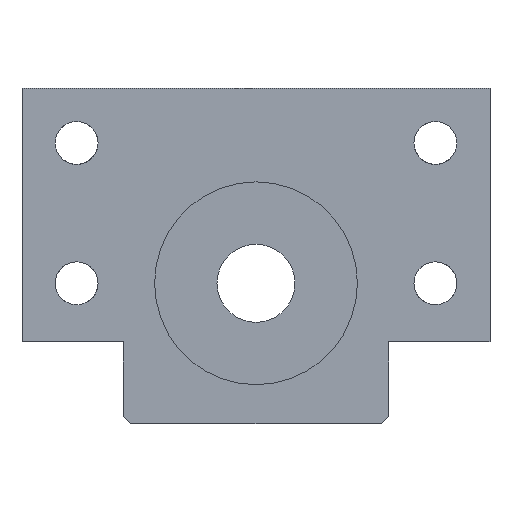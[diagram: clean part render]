
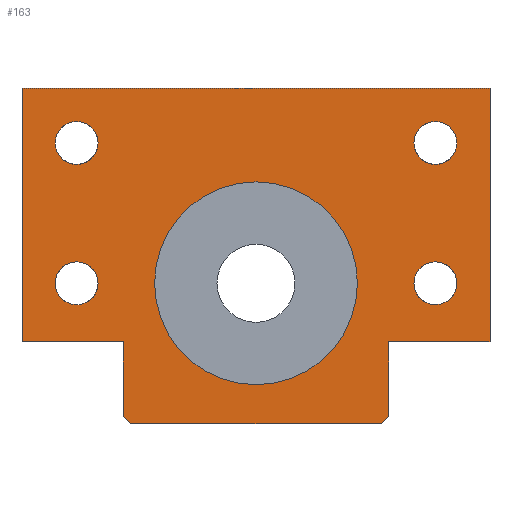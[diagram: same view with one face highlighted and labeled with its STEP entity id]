
A CAD part, left-side view. The second image highlights one B-rep face of the part: STEP entity #163.
In plain terms, the highlighted planar face has unit normal (-1, 0, 0).
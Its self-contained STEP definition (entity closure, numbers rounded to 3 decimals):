
#83=LINE('',#1121,#113);
#84=LINE('',#1125,#114);
#85=LINE('',#1127,#115);
#86=LINE('',#1129,#116);
#87=LINE('',#1131,#117);
#88=LINE('',#1133,#118);
#89=LINE('',#1135,#119);
#90=LINE('',#1137,#120);
#91=LINE('',#1139,#121);
#92=LINE('',#1141,#122);
#113=VECTOR('',#686,1.);
#114=VECTOR('',#691,1.);
#115=VECTOR('',#692,1.);
#116=VECTOR('',#693,1.);
#117=VECTOR('',#694,1.);
#118=VECTOR('',#695,1.);
#119=VECTOR('',#696,1.);
#120=VECTOR('',#697,1.);
#121=VECTOR('',#698,1.);
#122=VECTOR('',#699,1.);
#142=PLANE('',#618);
#163=ADVANCED_FACE('',(#243,#244,#245,#246,#247,#248),#142,.T.);
#204=CIRCLE('',#603,2.75);
#205=CIRCLE('',#605,2.75);
#210=CIRCLE('',#615,2.75);
#211=CIRCLE('',#616,2.75);
#212=CIRCLE('',#617,13.);
#243=FACE_BOUND('',#308,.T.);
#244=FACE_BOUND('',#309,.T.);
#245=FACE_BOUND('',#310,.T.);
#246=FACE_BOUND('',#311,.T.);
#247=FACE_BOUND('',#312,.T.);
#248=FACE_BOUND('',#313,.T.);
#308=EDGE_LOOP('',(#383,#384,#385,#386,#387,#388,#389,#390,#391,#392));
#309=EDGE_LOOP('',(#393));
#310=EDGE_LOOP('',(#394));
#311=EDGE_LOOP('',(#395));
#312=EDGE_LOOP('',(#396));
#313=EDGE_LOOP('',(#397));
#383=ORIENTED_EDGE('',*,*,#547,.T.);
#384=ORIENTED_EDGE('',*,*,#548,.T.);
#385=ORIENTED_EDGE('',*,*,#549,.T.);
#386=ORIENTED_EDGE('',*,*,#550,.T.);
#387=ORIENTED_EDGE('',*,*,#551,.T.);
#388=ORIENTED_EDGE('',*,*,#552,.T.);
#389=ORIENTED_EDGE('',*,*,#553,.T.);
#390=ORIENTED_EDGE('',*,*,#554,.T.);
#391=ORIENTED_EDGE('',*,*,#555,.T.);
#392=ORIENTED_EDGE('',*,*,#545,.T.);
#393=ORIENTED_EDGE('',*,*,#556,.F.);
#394=ORIENTED_EDGE('',*,*,#557,.F.);
#395=ORIENTED_EDGE('',*,*,#537,.F.);
#396=ORIENTED_EDGE('',*,*,#538,.F.);
#397=ORIENTED_EDGE('',*,*,#558,.F.);
#487=VERTEX_POINT('',#1100);
#488=VERTEX_POINT('',#1103);
#493=VERTEX_POINT('',#1116);
#495=VERTEX_POINT('',#1120);
#497=VERTEX_POINT('',#1126);
#498=VERTEX_POINT('',#1128);
#499=VERTEX_POINT('',#1130);
#500=VERTEX_POINT('',#1132);
#501=VERTEX_POINT('',#1134);
#502=VERTEX_POINT('',#1136);
#503=VERTEX_POINT('',#1138);
#504=VERTEX_POINT('',#1140);
#505=VERTEX_POINT('',#1143);
#506=VERTEX_POINT('',#1145);
#507=VERTEX_POINT('',#1147);
#537=EDGE_CURVE('GENERATED CIRCLE',#487,#487,#204,.T.);
#538=EDGE_CURVE('GENERATED CIRCLE',#488,#488,#205,.T.);
#545=EDGE_CURVE('LINE',#493,#495,#83,.T.);
#547=EDGE_CURVE('LINE',#495,#497,#84,.T.);
#548=EDGE_CURVE('LINE',#497,#498,#85,.T.);
#549=EDGE_CURVE('LINE',#498,#499,#86,.T.);
#550=EDGE_CURVE('LINE',#499,#500,#87,.T.);
#551=EDGE_CURVE('LINE',#500,#501,#88,.T.);
#552=EDGE_CURVE('LINE',#501,#502,#89,.T.);
#553=EDGE_CURVE('LINE',#502,#503,#90,.T.);
#554=EDGE_CURVE('LINE',#503,#504,#91,.T.);
#555=EDGE_CURVE('LINE',#504,#493,#92,.T.);
#556=EDGE_CURVE('GENERATED CIRCLE',#505,#505,#210,.T.);
#557=EDGE_CURVE('GENERATED CIRCLE',#506,#506,#211,.T.);
#558=EDGE_CURVE('GENERATED CIRCLE',#507,#507,#212,.T.);
#603=AXIS2_PLACEMENT_3D('',#1099,#663,#664);
#605=AXIS2_PLACEMENT_3D('',#1102,#667,#668);
#615=AXIS2_PLACEMENT_3D('',#1142,#700,#701);
#616=AXIS2_PLACEMENT_3D('',#1144,#702,#703);
#617=AXIS2_PLACEMENT_3D('',#1146,#704,#705);
#618=AXIS2_PLACEMENT_3D('',#1148,#706,#707);
#663=DIRECTION('',(-1.,0.,0.));
#664=DIRECTION('',(0.,0.,1.));
#667=DIRECTION('',(-1.,0.,0.));
#668=DIRECTION('',(0.,0.,1.));
#686=DIRECTION('',(0.,1.,0.));
#691=DIRECTION('',(0.,0.,-1.));
#692=DIRECTION('',(0.,-1.,0.));
#693=DIRECTION('',(0.,0.,-1.));
#694=DIRECTION('',(0.,-0.707,-0.707));
#695=DIRECTION('',(0.,-1.,0.));
#696=DIRECTION('',(0.,-0.707,0.707));
#697=DIRECTION('',(0.,0.,1.));
#698=DIRECTION('',(0.,-1.,0.));
#699=DIRECTION('',(0.,0.,1.));
#700=DIRECTION('',(-1.,0.,0.));
#701=DIRECTION('',(0.,0.,1.));
#702=DIRECTION('',(-1.,0.,0.));
#703=DIRECTION('',(0.,0.,1.));
#704=DIRECTION('',(-1.,0.,0.));
#705=DIRECTION('',(0.,0.,1.));
#706=DIRECTION('',(-1.,0.,0.));
#707=DIRECTION('',(0.,-1.,0.));
#1099=CARTESIAN_POINT('',(10.,-23.,-7.));
#1100=CARTESIAN_POINT('',(10.,-23.,-4.25));
#1102=CARTESIAN_POINT('',(10.,-23.,-25.));
#1103=CARTESIAN_POINT('',(10.,-23.,-22.25));
#1116=CARTESIAN_POINT('',(10.,-30.,0.));
#1120=CARTESIAN_POINT('',(10.,30.,0.));
#1121=CARTESIAN_POINT('',(10.,0.,0.));
#1125=CARTESIAN_POINT('',(10.,30.,-16.25));
#1126=CARTESIAN_POINT('',(10.,30.,-32.5));
#1127=CARTESIAN_POINT('',(10.,23.75,-32.5));
#1128=CARTESIAN_POINT('',(10.,17.,-32.5));
#1129=CARTESIAN_POINT('',(10.,17.,-37.043));
#1130=CARTESIAN_POINT('',(10.,17.,-42.086));
#1131=CARTESIAN_POINT('',(10.,16.793,-42.293));
#1132=CARTESIAN_POINT('',(10.,16.086,-43.));
#1133=CARTESIAN_POINT('',(10.,0.,-43.));
#1134=CARTESIAN_POINT('',(10.,-16.086,-43.));
#1135=CARTESIAN_POINT('',(10.,-16.793,-42.293));
#1136=CARTESIAN_POINT('',(10.,-17.,-42.086));
#1137=CARTESIAN_POINT('',(10.,-17.,-37.043));
#1138=CARTESIAN_POINT('',(10.,-17.,-32.5));
#1139=CARTESIAN_POINT('',(10.,-23.75,-32.5));
#1140=CARTESIAN_POINT('',(10.,-30.,-32.5));
#1141=CARTESIAN_POINT('',(10.,-30.,-16.25));
#1142=CARTESIAN_POINT('',(10.,23.,-7.));
#1143=CARTESIAN_POINT('',(10.,23.,-4.25));
#1144=CARTESIAN_POINT('',(10.,23.,-25.));
#1145=CARTESIAN_POINT('',(10.,23.,-22.25));
#1146=CARTESIAN_POINT('',(10.,0.,-25.));
#1147=CARTESIAN_POINT('',(10.,0.,-12.));
#1148=CARTESIAN_POINT('',(10.,0.,0.));
